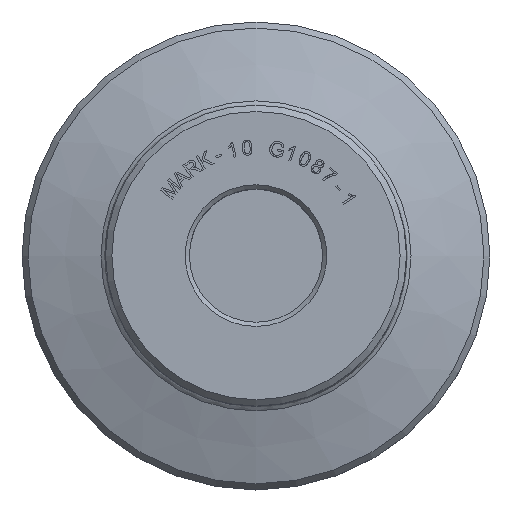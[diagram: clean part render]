
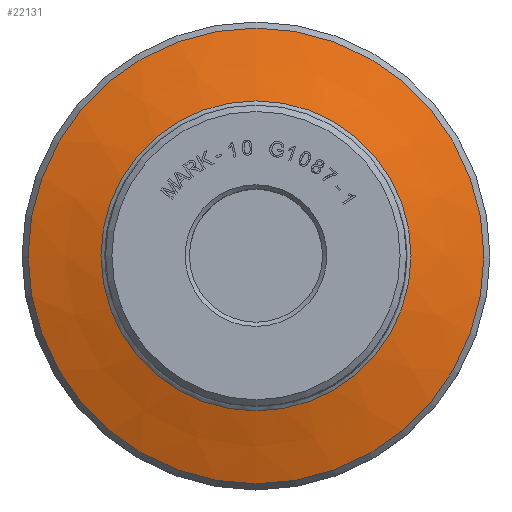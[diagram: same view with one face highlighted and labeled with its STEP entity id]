
A CAD part, top view. The second image highlights one B-rep face of the part: STEP entity #22131.
In plain terms, the highlighted conical face has half-angle 72 degrees and reference radius 22.955 mm.
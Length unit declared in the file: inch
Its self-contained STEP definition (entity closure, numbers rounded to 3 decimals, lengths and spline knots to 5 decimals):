
#22089=CARTESIAN_POINT('',(20.46731,1.35198,-14.06387));
#22090=VERTEX_POINT('',#22089);
#22091=CARTESIAN_POINT('',(20.46731,0.62289,-14.06387));
#22092=DIRECTION('',(0.0,0.0,1.0));
#22093=DIRECTION('',(0.0,-1.0,0.0));
#22094=AXIS2_PLACEMENT_3D('',#22091,#22092,#22093);
#22095=CIRCLE('',#22094,0.72909);
#22096=EDGE_CURVE('',#22090,#22090,#22095,.T.);
#22112=CARTESIAN_POINT('',(20.46731,0.62289,-14.12062));
#22113=DIRECTION('',(0.,0.,-1.0));
#22114=DIRECTION('',(0.0,1.0,0.0));
#22115=AXIS2_PLACEMENT_3D('',#22112,#22113,#22114);
#22116=CONICAL_SURFACE('',#22115,0.90375,72.);
#22117=CARTESIAN_POINT('',(20.46731,1.69435,-14.17511));
#22118=VERTEX_POINT('',#22117);
#22119=CARTESIAN_POINT('',(20.46731,0.62289,-14.17511));
#22120=DIRECTION('',(0.0,0.0,-1.0));
#22121=DIRECTION('',(0.0,-1.0,0.0));
#22122=AXIS2_PLACEMENT_3D('',#22119,#22120,#22121);
#22123=CIRCLE('',#22122,1.07147);
#22124=EDGE_CURVE('',#22118,#22118,#22123,.T.);
#22125=ORIENTED_EDGE('',*,*,#22124,.F.);
#22126=EDGE_LOOP('',(#22125));
#22127=FACE_OUTER_BOUND('',#22126,.T.);
#22128=ORIENTED_EDGE('',*,*,#22096,.F.);
#22129=EDGE_LOOP('',(#22128));
#22130=FACE_BOUND('',#22129,.T.);
#22131=ADVANCED_FACE('',(#22127,#22130),#22116,.T.);
